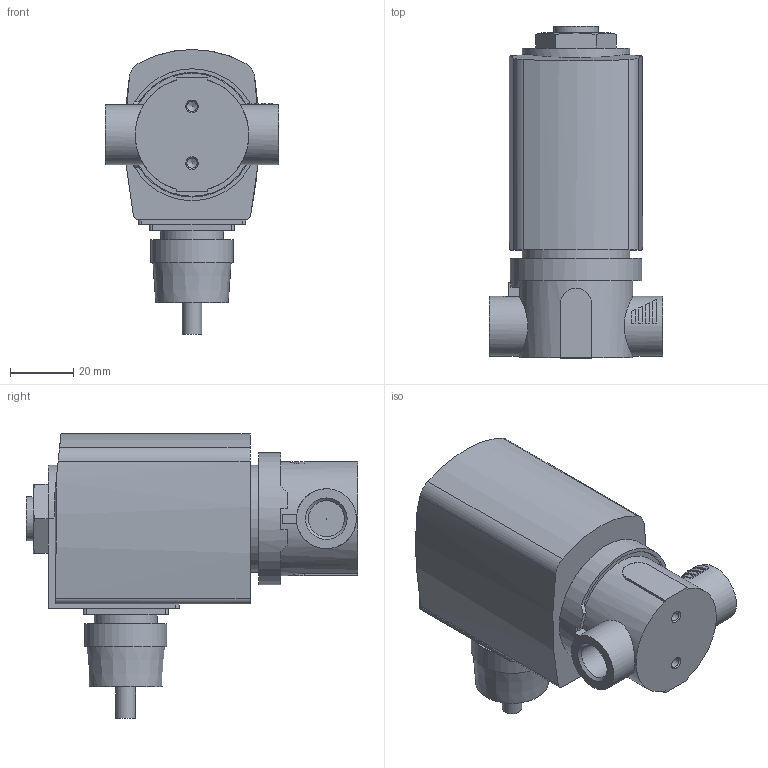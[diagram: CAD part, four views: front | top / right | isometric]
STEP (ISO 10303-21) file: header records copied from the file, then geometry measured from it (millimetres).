
FILE_DESCRIPTION(/* description */ ('STEP AP214'),/* implementation_level */ '2;1');
FILE_NAME(/* name */ '6240-385823-2_2-way_solenoid_valve__pilot-controlled',/* time_stamp */ '2024-05-10T11:52:25+02:00',/* author */ ('License CC BY-ND 4.0'),/* organization */ ('CADENAS'),/* preprocessor_version */ 'ST-DEVELOPER v19.3',/* originating_system */ 'PARTsolutions',/* authorisation */ ' ');
FILE_SCHEMA (('AUTOMOTIVE_DESIGN {1 0 10303 214 3 1 1}'));
Length unit declared in the file: millimetre
Products named in the file (3): 6240-385823-2/2-way solenoid valve, pilot-controlled; 6240-Gehaeuse-2/2-Wege-Magnetventil, vorgesteuert MX31G1/46VA; AC10ex-42ATEXKabelPlan-Coil
Assembly tree (2 placements, depth 2):
  6240-385823-2/2-way solenoid valve, pilot-controlled
    6240-Gehaeuse-2/2-Wege-Magnetventil, vorgesteuert MX31G1/46VA
    AC10ex-42ATEXKabelPlan-Coil
Bounding box: 55 x 105.2 x 90.3 mm (x, y, z)
Volume: 189541.2 mm3; surface area: 28909 mm2
Topology: 2 solids, 2 shells, 121 faces, 286 edges, 187 vertices
Faces by surface type: plane 70, cylinder 38, cone 13
Full cylindrical faces by diameter (mm): 0.2 x1, 3.242 x2, 6.2 x1, 11.445 x2, 14 x1, 19 x2, 20 x1, 26 x1, 34 x1, 36 x1, 39 x1, 39.5 x1, 41.8 x1
Entity records: 4292 total; most frequent: CARTESIAN_POINT 656, DIRECTION 597, ORIENTED_EDGE 508, EDGE_CURVE 254, AXIS2_PLACEMENT_3D 239, VERTEX_POINT 180, FACE_BOUND 166, EDGE_LOOP 164
